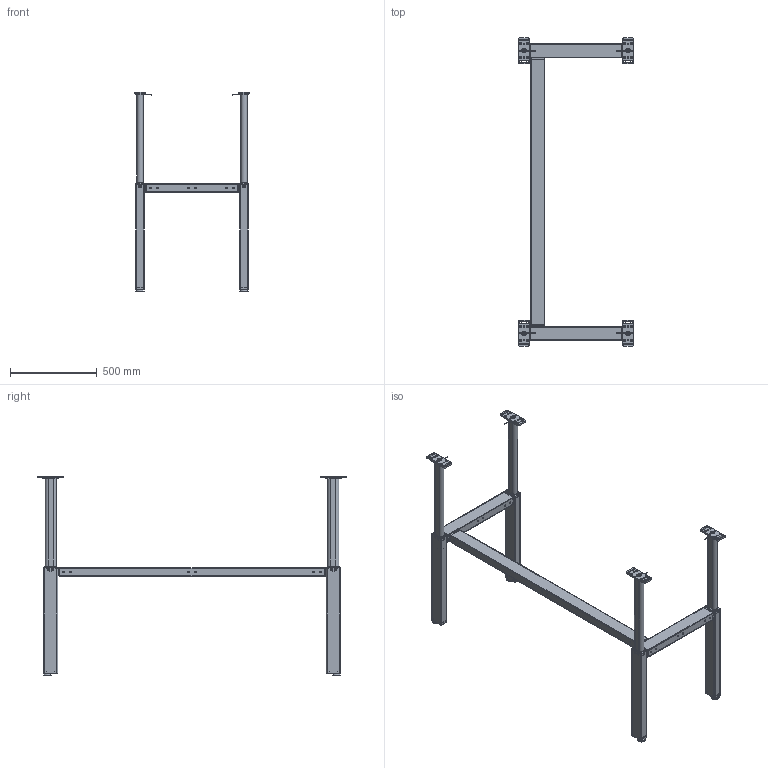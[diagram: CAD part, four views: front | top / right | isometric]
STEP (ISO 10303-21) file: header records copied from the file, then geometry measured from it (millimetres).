
FILE_DESCRIPTION(/* description */ ('Unknown'),/* implementation_level */ '2;1');
FILE_NAME(/* name */ '108.00072_02-Ausgefahren',/* time_stamp */ '2022-02-11T16:57:13+01:00',/* author */ ('Unknown'),/* organization */ ('Unknown'),/* preprocessor_version */ 'ST-DEVELOPER v18.1',/* originating_system */ 'Solid Edge',/* authorisation */ 'Unknown');
FILE_SCHEMA (('AUTOMOTIVE_DESIGN { 1 0 10303 214 3 1 1 }','AUTOMOTIVE_DESIGN {1 0 10303 214 3 1 1}'));
Length unit declared in the file: millimetre
Products named in the file (43): 108.00072; 306.00090_oa_0; 124.00004; 107.00147_oa_1; 125.00021; 115.00007_oa_2; 125.00033; 125.00022; 127.00038; 127.00034_oa_3; Aussenprofil TA 1450; 127.00032; 127.00035; Innenprofil TA 1450; Abschlussplatte; 127.00048; Schraube 2,9x6,4; 127.00034_2’403_2’488_Kehlnaht 1_oa_4; 113.00002_70mm; 142.00031; 142.00077; 306.00090_oa_5; 107.00147_oa_6; 115.00007_oa_7; 127.00034_oa_8; 127.00034_2’403_2’488_Kehlnaht 1_oa_9; 115.00150; 127.00365; 113.00006; 113.00006-ohne Mutter; Mutter M10; 306.00090_oa_10; 107.00147_oa_11; 115.00007_oa_12; 127.00034_oa_13; 127.00034_2’403_2’488_Kehlnaht 1_oa_14; 115.00154; 127.00373; 306.00090_oa_15; 107.00147_oa_16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
Assembly tree (123 placements, depth 4):
  108.00072
    306.00090_oa_0
      124.00004
      107.00147_oa_1
        125.00021
        115.00007_oa_2
        125.00033
        125.00022
      127.00038
      127.00034_oa_3
        Aussenprofil TA 1450
        127.00032
        127.00035
        Innenprofil TA 1450
        Abschlussplatte
        127.00048
        Schraube 2,9x6,4  x6
        127.00034_2’403_2’488_Kehlnaht 1_oa_4
      113.00002_70mm
      142.00031
      142.00077  x4
    306.00090_oa_5
      124.00004
      107.00147_oa_6
        125.00021
        115.00007_oa_7
        125.00033
        125.00022
      127.00038
      127.00034_oa_8
        Aussenprofil TA 1450
        127.00032
        127.00035
        Innenprofil TA 1450
        Abschlussplatte
        127.00048
        Schraube 2,9x6,4  x6
        127.00034_2’403_2’488_Kehlnaht 1_oa_9
      113.00002_70mm
      142.00031
      142.00077  x4
    115.00150  x2
      127.00365
    113.00006  x4
      113.00006-ohne Mutter
      Mutter M10
    306.00090_oa_10
      124.00004
      107.00147_oa_11
        125.00021
        115.00007_oa_12
        125.00033
        125.00022
      127.00038
      127.00034_oa_13
        Aussenprofil TA 1450
        127.00032
        127.00035
        Innenprofil TA 1450
        Abschlussplatte
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Bounding box: 660 x 1780 x 1153 mm (x, y, z)
Volume: 3858876.5 mm3; surface area: 3605313.6 mm2
Topology: 119 solids, 119 shells, 4418 faces, 10548 edges, 6392 vertices
Faces by surface type: cylinder 1688, plane 1518, bspline 516, cone 344, torus 304, sphere 48
Full cylindrical faces by diameter (mm): 1.8 x8, 2.2 x4, 2.5 x24, 2.78 x4, 2.9 x24, 3.5 x4, 4 x4, 4.1 x8, 4.2 x4, 4.9 x8, 4.917 x118, 5.8 x32, 6 x16, 6.5 x28, 6.647 x12, 6.8 x24, 6.917 x8, 7 x16, 8 x12, 8.376 x12, 9 x62, 9.5 x4, 10 x20, 12 x4, 12.5 x4, 13 x24, 13.5 x4, 13.9 x8, 15 x4, 19 x4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
Entity records: 36163 total; most frequent: CARTESIAN_POINT 8033, DIRECTION 4999, ORIENTED_EDGE 4430, EDGE_CURVE 2215, AXIS2_PLACEMENT_3D 2021, FACE_BOUND 1615, EDGE_LOOP 1614, VERTEX_POINT 1516
